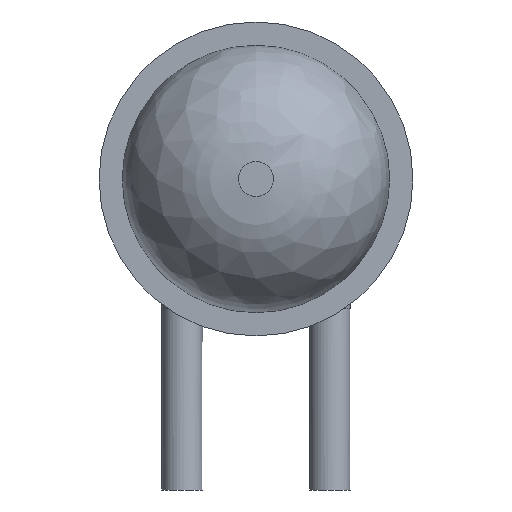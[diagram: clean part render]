
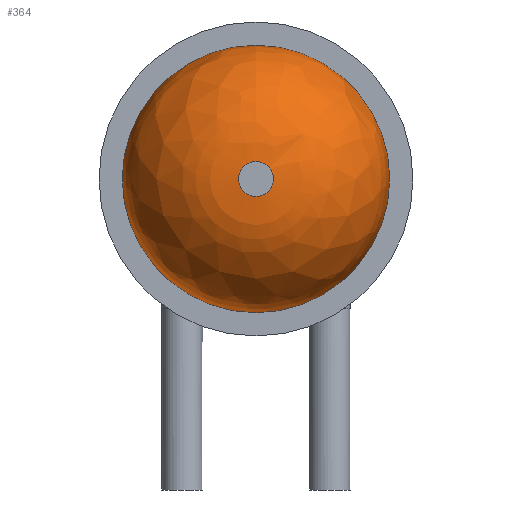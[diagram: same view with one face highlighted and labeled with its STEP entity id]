
A CAD part, front view. The second image highlights one B-rep face of the part: STEP entity #364.
In plain terms, the highlighted free-form (B-spline) face has degree [2, 2] with [3, 9] control points.
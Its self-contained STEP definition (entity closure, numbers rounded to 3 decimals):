
#39=(
BOUNDED_SURFACE()
B_SPLINE_SURFACE(2,2,((#581,#582,#583,#584,#585,#586,#587,#588,#589),(#590,
#591,#592,#593,#594,#595,#596,#597,#598),(#599,#600,#601,#602,#603,#604,
#605,#606,#607)),.UNSPECIFIED.,.F.,.T.,.F.)
B_SPLINE_SURFACE_WITH_KNOTS((3,3),(3,2,2,2,3),(0.,1.571),
(-3.142,-1.571,0.,1.571,3.142),
 .UNSPECIFIED.)
GEOMETRIC_REPRESENTATION_ITEM()
RATIONAL_B_SPLINE_SURFACE(((1.,0.707,1.,0.707,1.,
0.707,1.,0.707,1.),(0.707,0.5,
0.707,0.5,0.707,0.5,
0.707,0.5,0.707),(1.,0.707,
1.,0.707,1.,0.707,1.,0.707,1.)))
REPRESENTATION_ITEM('')
SURFACE()
);
#80=FACE_OUTER_BOUND('',#107,.T.);
#107=EDGE_LOOP('',(#255,#256,#257,#258,#259));
#131=CIRCLE('',#408,0.3);
#132=CIRCLE('',#410,2.3);
#133=CIRCLE('',#411,2.3);
#134=CIRCLE('',#412,2.);
#158=VERTEX_POINT('',#573);
#159=VERTEX_POINT('',#576);
#160=VERTEX_POINT('',#577);
#193=EDGE_CURVE('',#158,#158,#131,.T.);
#194=EDGE_CURVE('',#159,#160,#132,.T.);
#196=EDGE_CURVE('',#160,#159,#133,.T.);
#197=EDGE_CURVE('',#160,#158,#134,.T.);
#255=ORIENTED_EDGE('',*,*,#194,.T.);
#256=ORIENTED_EDGE('',*,*,#197,.T.);
#257=ORIENTED_EDGE('',*,*,#193,.T.);
#258=ORIENTED_EDGE('',*,*,#197,.F.);
#259=ORIENTED_EDGE('',*,*,#196,.T.);
#364=ADVANCED_FACE('',(#80),#39,.F.);
#408=AXIS2_PLACEMENT_3D('',#574,#466,#467);
#410=AXIS2_PLACEMENT_3D('',#578,#470,#471);
#411=AXIS2_PLACEMENT_3D('',#580,#473,#474);
#412=AXIS2_PLACEMENT_3D('',#608,#475,#476);
#466=DIRECTION('center_axis',(0.,1.,0.));
#467=DIRECTION('ref_axis',(-1.,0.,0.));
#470=DIRECTION('center_axis',(0.,-1.,0.));
#471=DIRECTION('ref_axis',(-1.,0.,0.));
#473=DIRECTION('center_axis',(0.,-1.,0.));
#474=DIRECTION('ref_axis',(-1.,0.,0.));
#475=DIRECTION('center_axis',(1.,0.,0.));
#476=DIRECTION('ref_axis',(0.,0.,1.));
#573=CARTESIAN_POINT('',(0.,-7.093,4.));
#574=CARTESIAN_POINT('Origin',(0.,-7.093,3.7));
#576=CARTESIAN_POINT('',(2.3,-5.093,3.7));
#577=CARTESIAN_POINT('',(0.,-5.093,6.));
#578=CARTESIAN_POINT('Origin',(0.,-5.093,3.7));
#580=CARTESIAN_POINT('Origin',(0.,-5.093,3.7));
#581=CARTESIAN_POINT('Ctrl Pts',(0.,-5.093,
6.));
#582=CARTESIAN_POINT('Ctrl Pts',(-2.3,-5.093,6.));
#583=CARTESIAN_POINT('Ctrl Pts',(-2.3,-5.093,3.7));
#584=CARTESIAN_POINT('Ctrl Pts',(-2.3,-5.093,1.4));
#585=CARTESIAN_POINT('Ctrl Pts',(0.,-5.093,
1.4));
#586=CARTESIAN_POINT('Ctrl Pts',(2.3,-5.093,1.4));
#587=CARTESIAN_POINT('Ctrl Pts',(2.3,-5.093,3.7));
#588=CARTESIAN_POINT('Ctrl Pts',(2.3,-5.093,6.));
#589=CARTESIAN_POINT('Ctrl Pts',(0.,-5.093,
6.));
#590=CARTESIAN_POINT('Ctrl Pts',(0.,-7.093,
6.));
#591=CARTESIAN_POINT('Ctrl Pts',(-2.3,-7.093,6.));
#592=CARTESIAN_POINT('Ctrl Pts',(-2.3,-7.093,3.7));
#593=CARTESIAN_POINT('Ctrl Pts',(-2.3,-7.093,1.4));
#594=CARTESIAN_POINT('Ctrl Pts',(0.,-7.093,
1.4));
#595=CARTESIAN_POINT('Ctrl Pts',(2.3,-7.093,1.4));
#596=CARTESIAN_POINT('Ctrl Pts',(2.3,-7.093,3.7));
#597=CARTESIAN_POINT('Ctrl Pts',(2.3,-7.093,6.));
#598=CARTESIAN_POINT('Ctrl Pts',(0.,-7.093,
6.));
#599=CARTESIAN_POINT('Ctrl Pts',(0.,-7.093,
4.));
#600=CARTESIAN_POINT('Ctrl Pts',(-0.3,-7.093,4.));
#601=CARTESIAN_POINT('Ctrl Pts',(-0.3,-7.093,3.7));
#602=CARTESIAN_POINT('Ctrl Pts',(-0.3,-7.093,3.4));
#603=CARTESIAN_POINT('Ctrl Pts',(0.,-7.093,
3.4));
#604=CARTESIAN_POINT('Ctrl Pts',(0.3,-7.093,3.4));
#605=CARTESIAN_POINT('Ctrl Pts',(0.3,-7.093,3.7));
#606=CARTESIAN_POINT('Ctrl Pts',(0.3,-7.093,4.));
#607=CARTESIAN_POINT('Ctrl Pts',(0.,-7.093,
4.));
#608=CARTESIAN_POINT('Origin',(0.,-5.093,4.));
